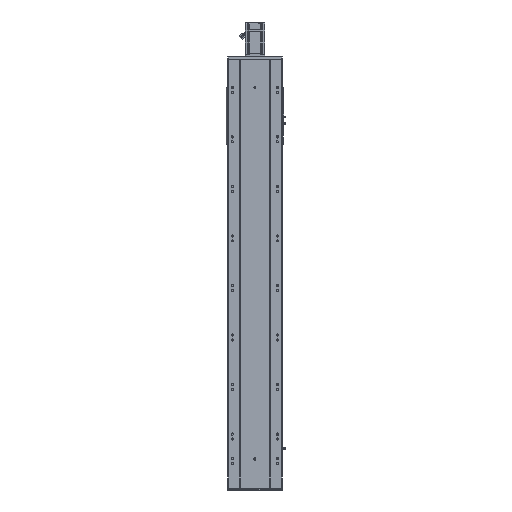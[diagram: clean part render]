
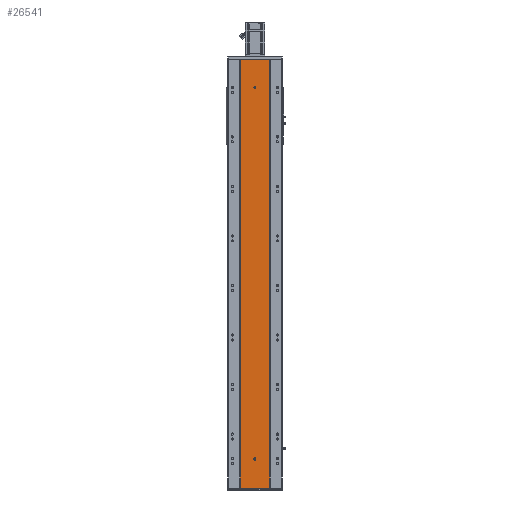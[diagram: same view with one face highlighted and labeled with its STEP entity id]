
A CAD part, front view. The second image highlights one B-rep face of the part: STEP entity #26541.
In plain terms, the highlighted planar face has unit normal (0, -1, 0).
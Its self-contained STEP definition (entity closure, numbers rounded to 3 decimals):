
#439 = EDGE_CURVE ( 'NONE', #18913, #9283, #70506, .T. ) ;
#1938 = ORIENTED_EDGE ( 'NONE', *, *, #26347, .F. ) ;
#2685 = DIRECTION ( 'NONE',  ( 0., 0., -1. ) ) ;
#2754 = DIRECTION ( 'NONE',  ( 0., 0., -1. ) ) ;
#4276 = VECTOR ( 'NONE', #2685, 1000. ) ;
#5646 = AXIS2_PLACEMENT_3D ( 'NONE', #57924, #57152, #22900 ) ;
#6734 = LINE ( 'NONE', #29532, #46102 ) ;
#6930 = CARTESIAN_POINT ( 'NONE',  ( 4., 0., 116.5 ) ) ;
#7910 = DIRECTION ( 'NONE',  ( 0., -1., 0. ) ) ;
#9067 = VERTEX_POINT ( 'NONE', #46754 ) ;
#9181 = VECTOR ( 'NONE', #24967, 1000. ) ;
#9283 = VERTEX_POINT ( 'NONE', #50002 ) ;
#9507 = CARTESIAN_POINT ( 'NONE',  ( -60., 0., 1732. ) ) ;
#10079 = CIRCLE ( 'NONE', #70050, 4. ) ;
#10521 = VECTOR ( 'NONE', #50899, 1000. ) ;
#11798 = ORIENTED_EDGE ( 'NONE', *, *, #439, .F. ) ;
#12513 = AXIS2_PLACEMENT_3D ( 'NONE', #14727, #73808, #50014 ) ;
#12732 = VERTEX_POINT ( 'NONE', #53935 ) ;
#12870 = EDGE_LOOP ( 'NONE', ( #11798, #1938 ) ) ;
#13705 = AXIS2_PLACEMENT_3D ( 'NONE', #45473, #57177, #28534 ) ;
#14529 = CARTESIAN_POINT ( 'NONE',  ( 0., 0., 116.5 ) ) ;
#14727 = CARTESIAN_POINT ( 'NONE',  ( 0., 0., 116.5 ) ) ;
#14888 = VECTOR ( 'NONE', #44762, 1000. ) ;
#17311 = EDGE_CURVE ( 'NONE', #69109, #34883, #39376, .T. ) ;
#18568 = DIRECTION ( 'NONE',  ( 0., -1., 0. ) ) ;
#18913 = VERTEX_POINT ( 'NONE', #33381 ) ;
#19994 = EDGE_CURVE ( 'NONE', #41424, #34883, #56046, .T. ) ;
#20532 = EDGE_CURVE ( 'NONE', #56216, #34477, #57731, .T. ) ;
#20610 = ORIENTED_EDGE ( 'NONE', *, *, #42283, .F. ) ;
#22900 = DIRECTION ( 'NONE',  ( 0., 0., -1. ) ) ;
#24967 = DIRECTION ( 'NONE',  ( 0., 0., -1. ) ) ;
#25730 = ORIENTED_EDGE ( 'NONE', *, *, #19994, .F. ) ;
#26021 = LINE ( 'NONE', #9507, #10521 ) ;
#26296 = EDGE_CURVE ( 'NONE', #74269, #54154, #30213, .T. ) ;
#26347 = EDGE_CURVE ( 'NONE', #9283, #18913, #10079, .T. ) ;
#26541 = ADVANCED_FACE ( 'NONE', ( #42108, #43962, #55815 ), #39816, .F. ) ;
#27019 = CARTESIAN_POINT ( 'NONE',  ( -60., 0., 0. ) ) ;
#27617 = ORIENTED_EDGE ( 'NONE', *, *, #74979, .T. ) ;
#28534 = DIRECTION ( 'NONE',  ( 0., 0., 1. ) ) ;
#28644 = CARTESIAN_POINT ( 'NONE',  ( -4., 0., 116.5 ) ) ;
#29532 = CARTESIAN_POINT ( 'NONE',  ( 4., 0., 116.5 ) ) ;
#30095 = CIRCLE ( 'NONE', #42178, 4. ) ;
#30113 = CARTESIAN_POINT ( 'NONE',  ( -4., 0., 116.5 ) ) ;
#30213 = LINE ( 'NONE', #30113, #9181 ) ;
#31778 = ORIENTED_EDGE ( 'NONE', *, *, #17311, .T. ) ;
#32622 = ORIENTED_EDGE ( 'NONE', *, *, #20532, .F. ) ;
#32707 = CARTESIAN_POINT ( 'NONE',  ( 60., 0., 1732. ) ) ;
#33085 = CARTESIAN_POINT ( 'NONE',  ( -60., 0., 0. ) ) ;
#33381 = CARTESIAN_POINT ( 'NONE',  ( 0., 0., 1614. ) ) ;
#34477 = VERTEX_POINT ( 'NONE', #6930 ) ;
#34883 = VERTEX_POINT ( 'NONE', #51127 ) ;
#36853 = ORIENTED_EDGE ( 'NONE', *, *, #48639, .F. ) ;
#37088 = EDGE_CURVE ( 'NONE', #54154, #56216, #30095, .T. ) ;
#39376 = LINE ( 'NONE', #27019, #66794 ) ;
#39816 = PLANE ( 'NONE',  #13705 ) ;
#40090 = ORIENTED_EDGE ( 'NONE', *, *, #37088, .F. ) ;
#40475 = CIRCLE ( 'NONE', #44435, 4. ) ;
#41424 = VERTEX_POINT ( 'NONE', #48928 ) ;
#41875 = DIRECTION ( 'NONE',  ( 0., 0., -1. ) ) ;
#42102 = CARTESIAN_POINT ( 'NONE',  ( 0., 0., 119.5 ) ) ;
#42108 = FACE_BOUND ( 'NONE', #12870, .T. ) ;
#42124 = CARTESIAN_POINT ( 'NONE',  ( 0., 0., 1618. ) ) ;
#42178 = AXIS2_PLACEMENT_3D ( 'NONE', #14529, #7910, #2754 ) ;
#42283 = EDGE_CURVE ( 'NONE', #9067, #74269, #40475, .T. ) ;
#43962 = FACE_BOUND ( 'NONE', #44199, .T. ) ;
#44199 = EDGE_LOOP ( 'NONE', ( #50897, #32622, #40090, #65652, #20610 ) ) ;
#44435 = AXIS2_PLACEMENT_3D ( 'NONE', #42102, #18568, #53839 ) ;
#44762 = DIRECTION ( 'NONE',  ( 0., 0., -1. ) ) ;
#45473 = CARTESIAN_POINT ( 'NONE',  ( -60., 0., 1732. ) ) ;
#46102 = VECTOR ( 'NONE', #70702, 1000. ) ;
#46417 = LINE ( 'NONE', #61961, #4276 ) ;
#46754 = CARTESIAN_POINT ( 'NONE',  ( 4., 0., 119.5 ) ) ;
#48639 = EDGE_CURVE ( 'NONE', #12732, #41424, #26021, .T. ) ;
#48928 = CARTESIAN_POINT ( 'NONE',  ( 60., 0., 1732. ) ) ;
#50002 = CARTESIAN_POINT ( 'NONE',  ( 0., 0., 1622. ) ) ;
#50014 = DIRECTION ( 'NONE',  ( 0., 0., -1. ) ) ;
#50897 = ORIENTED_EDGE ( 'NONE', *, *, #64025, .F. ) ;
#50899 = DIRECTION ( 'NONE',  ( 1., 0., 0. ) ) ;
#51127 = CARTESIAN_POINT ( 'NONE',  ( 60., 0., 0. ) ) ;
#53839 = DIRECTION ( 'NONE',  ( 0., 0., -1. ) ) ;
#53935 = CARTESIAN_POINT ( 'NONE',  ( -60., 0., 1732. ) ) ;
#54154 = VERTEX_POINT ( 'NONE', #28644 ) ;
#55815 = FACE_OUTER_BOUND ( 'NONE', #70267, .T. ) ;
#56046 = LINE ( 'NONE', #32707, #14888 ) ;
#56216 = VERTEX_POINT ( 'NONE', #70948 ) ;
#57152 = DIRECTION ( 'NONE',  ( 0., -1., 0. ) ) ;
#57177 = DIRECTION ( 'NONE',  ( 0., 1., 0. ) ) ;
#57731 = CIRCLE ( 'NONE', #12513, 4. ) ;
#57924 = CARTESIAN_POINT ( 'NONE',  ( 0., 0., 1618. ) ) ;
#61961 = CARTESIAN_POINT ( 'NONE',  ( -60., 0., 1732. ) ) ;
#64025 = EDGE_CURVE ( 'NONE', #34477, #9067, #6734, .T. ) ;
#65652 = ORIENTED_EDGE ( 'NONE', *, *, #26296, .F. ) ;
#66794 = VECTOR ( 'NONE', #68698, 1000. ) ;
#68698 = DIRECTION ( 'NONE',  ( 1., 0., 0. ) ) ;
#69109 = VERTEX_POINT ( 'NONE', #33085 ) ;
#70050 = AXIS2_PLACEMENT_3D ( 'NONE', #42124, #71020, #41875 ) ;
#70267 = EDGE_LOOP ( 'NONE', ( #31778, #25730, #36853, #27617 ) ) ;
#70506 = CIRCLE ( 'NONE', #5646, 4. ) ;
#70702 = DIRECTION ( 'NONE',  ( 0., 0., 1. ) ) ;
#70948 = CARTESIAN_POINT ( 'NONE',  ( 0., 0., 112.5 ) ) ;
#71020 = DIRECTION ( 'NONE',  ( 0., -1., 0. ) ) ;
#71755 = CARTESIAN_POINT ( 'NONE',  ( -4., 0., 119.5 ) ) ;
#73808 = DIRECTION ( 'NONE',  ( 0., -1., 0. ) ) ;
#74269 = VERTEX_POINT ( 'NONE', #71755 ) ;
#74979 = EDGE_CURVE ( 'NONE', #12732, #69109, #46417, .T. ) ;
